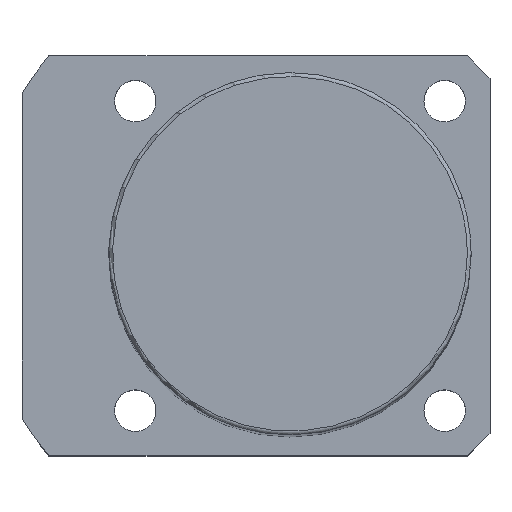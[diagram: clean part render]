
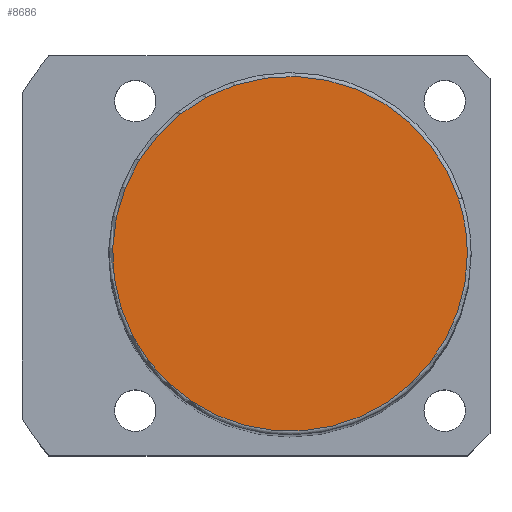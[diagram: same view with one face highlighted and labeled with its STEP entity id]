
A CAD part, top view. The second image highlights one B-rep face of the part: STEP entity #8686.
In plain terms, the highlighted planar face has unit normal (0, 0, 1).
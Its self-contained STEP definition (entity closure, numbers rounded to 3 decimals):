
#8652=CARTESIAN_POINT('',(23.5,0.0,169.0));
#8653=VERTEX_POINT('',#8652);
#8654=CARTESIAN_POINT('',(22.35,7.262,169.0));
#8655=VERTEX_POINT('',#8654);
#8656=CARTESIAN_POINT('',(0.0,0.0,169.0));
#8657=DIRECTION('',(0.0,0.0,1.0));
#8658=DIRECTION('',(1.0,0.0,0.0));
#8659=AXIS2_PLACEMENT_3D('',#8656,#8657,#8658);
#8660=CIRCLE('',#8659,23.5);
#8661=EDGE_CURVE('no 4132',#8653,#8655,#8660,.T.);
#8662=ORIENTED_EDGE('',*,*,#8661,.T.);
#8663=CARTESIAN_POINT('',(-22.35,-7.262,169.0));
#8664=VERTEX_POINT('',#8663);
#8665=CARTESIAN_POINT('',(0.0,0.0,169.0));
#8666=DIRECTION('',(0.0,0.0,1.0));
#8667=DIRECTION('',(1.0,0.0,0.0));
#8668=AXIS2_PLACEMENT_3D('',#8665,#8666,#8667);
#8669=CIRCLE('',#8668,23.5);
#8670=EDGE_CURVE('no 4138',#8655,#8664,#8669,.T.);
#8671=ORIENTED_EDGE('',*,*,#8670,.T.);
#8672=CARTESIAN_POINT('',(0.0,0.0,169.0));
#8673=DIRECTION('',(0.0,0.0,1.0));
#8674=DIRECTION('',(1.0,0.0,0.0));
#8675=AXIS2_PLACEMENT_3D('',#8672,#8673,#8674);
#8676=CIRCLE('',#8675,23.5);
#8677=EDGE_CURVE('no 4142',#8664,#8653,#8676,.T.);
#8678=ORIENTED_EDGE('',*,*,#8677,.T.);
#8679=EDGE_LOOP('',(#8662,#8671,#8678));
#8680=FACE_OUTER_BOUND('',#8679,.T.);
#8681=CARTESIAN_POINT('',(0.0,0.0,169.0));
#8682=DIRECTION('',(0.0,0.0,1.0));
#8683=DIRECTION('',(1.0,0.0,0.0));
#8684=AXIS2_PLACEMENT_3D('',#8681,#8682,#8683);
#8685=PLANE('',#8684);
#8686=ADVANCED_FACE('no 4123',(#8680),#8685,.T.);
